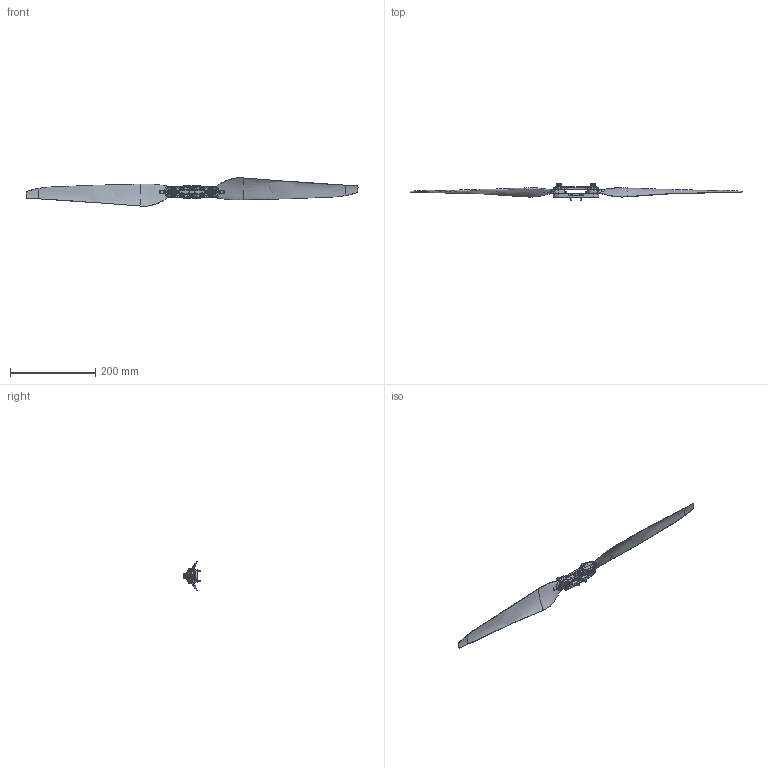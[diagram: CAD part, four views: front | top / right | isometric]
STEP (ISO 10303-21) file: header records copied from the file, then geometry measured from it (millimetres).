
FILE_DESCRIPTION (( 'STEP AP214' ), '1' );
FILE_NAME ('305050167AA-3011S蔑珔蔑標-V1-CCW.STEP', '2025-07-04T02:18:46', ( '' ), ( '' ), 'SwSTEP 2.0', 'SolidWorks 2021', '' );
FILE_SCHEMA (( 'AUTOMOTIVE_DESIGN' ));
Length unit declared in the file: millimetre
Products named in the file (8): 111350199A1-桨夹座-D10×80; 305050167AA-3011S蔑珔蔑標-V1-CCW; 111350197A0-桨夹盖-D10×80; 124400074A0-垫圈-D24×D10.2×t2-黑色; 104150053B0-销钉-D12×D10×21-本色; 104110694A0-螺丝-HM6×18-本色三组合; 111390149A0-殏詁蔑-3011S-蛁呿-A-CCW-窪伎; hexagon socket head cap screws gb-304_GB_FASTENER_SCREWS_HSHCS M3X12-N
Assembly tree (16 placements, depth 2):
  305050167AA-3011S蔑珔蔑標-V1-CCW
    111350199A1-桨夹座-D10×80
    104150053B0-销钉-D12×D10×21-本色  x2
    124400074A0-垫圈-D24×D10.2×t2-黑色  x4
    111390149A0-殏詁蔑-3011S-蛁呿-A-CCW-窪伎  x2
    hexagon socket head cap screws gb-304_GB_FASTENER_SCREWS_HSHCS M3X12-N  x4
    111350197A0-桨夹盖-D10×80
    104110694A0-螺丝-HM6×18-本色三组合  x2
Bounding box: 778 x 41.2 x 66.28 mm (x, y, z)
Volume: 108308.8 mm3; surface area: 85556.8 mm2
Topology: 20 solids, 20 shells, 1479 faces, 4034 edges, 2657 vertices
Faces by surface type: plane 804, cylinder 363, bspline 154, cone 116, sphere 24, torus 18
Full cylindrical faces by diameter (mm): 3 x4, 3.3 x4, 4.8 x2, 5 x6, 5.5 x4, 5.71 x2, 6.3 x2, 7 x2, 10 x9, 10.02 x2, 10.2 x4, 12 x2, 24.1 x4
Entity records: 168987 total; most frequent: CARTESIAN_POINT 146419, ORIENTED_EDGE 4818, DIRECTION 4248, EDGE_CURVE 2409, VERTEX_POINT 1589, AXIS2_PLACEMENT_3D 1488, VECTOR 1272, LINE 1272
